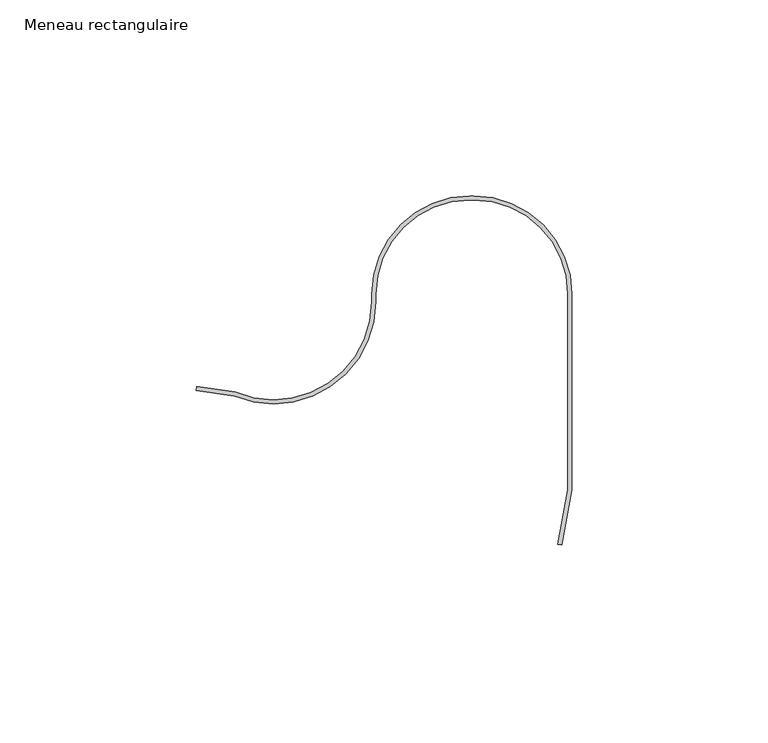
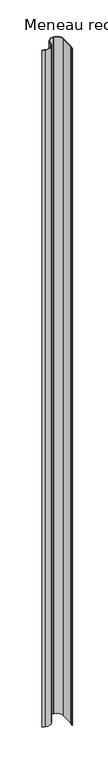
"""IFC4 building model written with IfcOpenShell, lengths in millimetres: member geometry, Meneau rectangulaire : Jonction contre mur Droite V."""

from ifc_helpers import new_model, si_unit, point, frame, frame_2d, origin, place, context, project, spatial, polyline, circle_curve, trimmed, segment, composite_curve, outline, extrude, source, transform, mapped, element, save


def meneau_rectangulaire_df2532a2(model_context):
    return source(origin(), model_context, "Body", "SweptSolid", [
        extrude(outline(composite_curve([segment(polyline([(-1.0, -26.3569132), (-1.0, 23.6430868)]), True, "CONTINUOUS"), segment(trimmed(circle_curve(frame_2d((-25.0, 23.6430868)), 24.0), [point((-1.0, 23.6430868))], [point((-25.0, 47.6430868))], True, "CARTESIAN"), True, "CONTINUOUS"), segment(polyline([(-25.0, 47.6430868), (-26.0, 47.6430868)]), True, "CONTINUOUS"), segment(trimmed(circle_curve(frame_2d((-26.0, 23.6430868)), 24.0), [point((-26.0, 47.6430868))], [point((-50.0, 23.6430868))], True, "CARTESIAN"), True, "CONTINUOUS"), segment(polyline([(-50.0, 23.6430868), (-50.0, 21.6218737)]), True, "CONTINUOUS"), segment(trimmed(circle_curve(frame_2d((-76.0, 21.6218737)), 26.0), [point((-50.0, 21.6218737))], [point((-86.0341553, -2.3638663))], False, "CARTESIAN"), True, "CONTINUOUS"), segment(polyline([(-86.0341553, -2.3638663), (-95.8078149, -0.9902681), (-95.6686418, 0.0), (-85.7659612, -1.391731)]), True, "CONTINUOUS"), segment(trimmed(circle_curve(frame_2d((-76.0, 21.6218737)), 25.0), [point((-85.7659612, -1.391731))], [point((-51.0, 21.6218737))], True, "CARTESIAN"), True, "CONTINUOUS"), segment(polyline([(-51.0, 21.6218737), (-51.0, 23.6430868)]), True, "CONTINUOUS"), segment(trimmed(circle_curve(frame_2d((-26.0, 23.6430868)), 25.0), [point((-51.0, 23.6430868))], [point((-26.0, 48.6430868))], False, "CARTESIAN"), True, "CONTINUOUS"), segment(polyline([(-26.0, 48.6430868), (-25.0, 48.6430868)]), True, "CONTINUOUS"), segment(trimmed(circle_curve(frame_2d((-25.0, 23.6430868)), 25.0), [point((-25.0, 48.6430868))], [point((0.0, 23.6430868))], False, "CARTESIAN"), True, "CONTINUOUS"), segment(polyline([(0.0, 23.6430868), (0.0, -26.3569132), (-2.6384309, -40.4046045), (-3.6043568, -40.2231847), (-1.0, -26.3569132)]), True, "CONTINUOUS")], self_intersect=False)), frame((0.0, 0.0, -2746.3373467), z_axis=(0.0, 0.0, 1.0), x_axis=(1.0, 0.0, 0.0)), (0.0, 0.0, 1.0), 2746.3373467),
    ])


if __name__ == "__main__":
    model = new_model("IFC4")
    model_context = context("Model", 3, world=origin())
    ifc_project = project(units=[si_unit("LENGTHUNIT", "METRE", prefix="MILLI")], contexts=[model_context])
    site = spatial("IfcSite", under=ifc_project)
    building = spatial("IfcBuilding", under=site)
    placement = place(None, origin())
    meneau_rectangulaire_shape = meneau_rectangulaire_df2532a2(model_context)
    element("IfcMember", 1, ObjectType="Meneau rectangulaire : Jonction contre mur Droite V", at=placement, inside=building, context=model_context, shape_type="MappedRepresentation", body=[
        mapped(meneau_rectangulaire_shape, transform((0.0, 0.0, 0.0), x_axis=(1.0, 0.0, 0.0), y_axis=(0.0, 1.0, 0.0), z_axis=(0.0, 0.0, 1.0))),
    ])
    save(model, "model.ifc")
